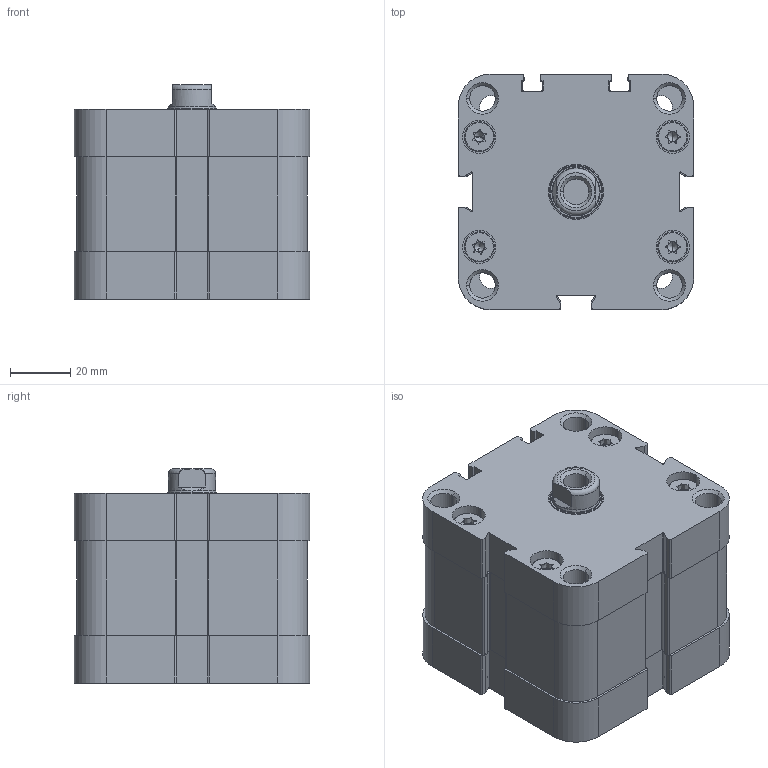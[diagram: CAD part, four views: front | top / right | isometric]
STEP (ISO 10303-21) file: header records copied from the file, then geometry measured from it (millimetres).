
FILE_DESCRIPTION (( 'STEP AP214' ), '1' );
FILE_NAME ('25_16827.STEP', '2017-01-05T11:11:56', ( '' ), ( '' ), 'SwSTEP 2.0', 'SolidWorks 2016', '' );
FILE_SCHEMA (( 'AUTOMOTIVE_DESIGN' ));
Length unit declared in the file: millimetre
Products named in the file (1): 25_16827
Bounding box: 78 x 78 x 71 mm (x, y, z)
Volume: 336994.6 mm3; surface area: 73123.2 mm2
Topology: 13 solids, 13 shells, 542 faces, 1341 edges, 838 vertices
Faces by surface type: plane 221, cylinder 209, cone 52, torus 44, bspline 16
Entity records: 22635 total; most frequent: CARTESIAN_POINT 3426, DIRECTION 2873, ORIENTED_EDGE 2650, EDGE_CURVE 1325, AXIS2_PLACEMENT_3D 1113, VERTEX_POINT 838, VECTOR 647, LINE 647
